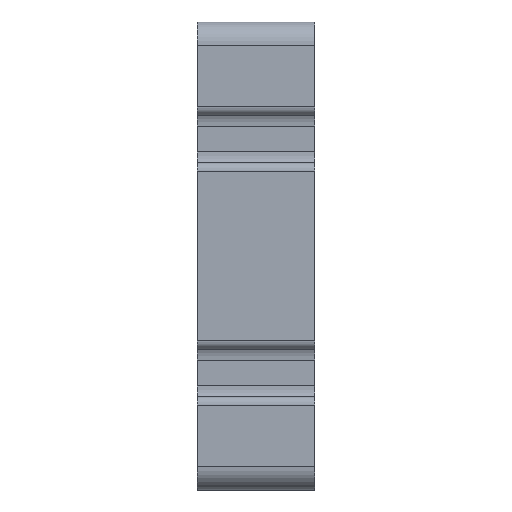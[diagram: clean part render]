
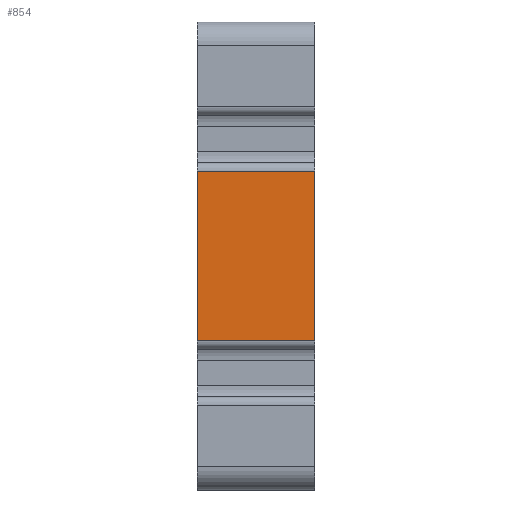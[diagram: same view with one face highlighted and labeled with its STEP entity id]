
A CAD part, left-side view. The second image highlights one B-rep face of the part: STEP entity #854.
In plain terms, the highlighted planar face has unit normal (-1, 0, 0).
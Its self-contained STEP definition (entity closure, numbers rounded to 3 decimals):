
#854=ADVANCED_FACE('',(#1759),#1760,.T.);
#1759=FACE_OUTER_BOUND('',#2716,.T.);
#1760=PLANE('',#2717);
#2716=EDGE_LOOP('',(#5189,#5190,#5191,#5192));
#2717=AXIS2_PLACEMENT_3D('',#5193,#5194,#5195);
#5189=ORIENTED_EDGE('',*,*,#6990,.T.);
#5190=ORIENTED_EDGE('',*,*,#7004,.T.);
#5191=ORIENTED_EDGE('',*,*,#7005,.T.);
#5192=ORIENTED_EDGE('',*,*,#6498,.T.);
#5193=CARTESIAN_POINT('',(-80.0,10.0,0.0));
#5194=DIRECTION('',(-1.0,0.0,0.0));
#5195=DIRECTION('',(0.0,0.0,-1.0));
#6498=EDGE_CURVE('',#8023,#8021,#8024,.T.);
#6990=EDGE_CURVE('',#8021,#8757,#8760,.T.);
#7004=EDGE_CURVE('',#8757,#8777,#8778,.T.);
#7005=EDGE_CURVE('',#8777,#8023,#8779,.T.);
#8021=VERTEX_POINT('',#10107);
#8023=VERTEX_POINT('',#10109);
#8024=LINE('',#10110,#10111);
#8757=VERTEX_POINT('',#11060);
#8760=LINE('',#11063,#11064);
#8777=VERTEX_POINT('',#11087);
#8778=LINE('',#11088,#11089);
#8779=LINE('',#11090,#11091);
#10107=CARTESIAN_POINT('',(-80.0,10.0,-14.5));
#10109=CARTESIAN_POINT('',(-80.0,10.0,14.5));
#10110=CARTESIAN_POINT('',(-80.0,10.0,36.0));
#10111=VECTOR('',#12141,1.0);
#11060=CARTESIAN_POINT('',(-80.0,-10.0,-14.5));
#11063=CARTESIAN_POINT('',(-80.0,10.0,-14.5));
#11064=VECTOR('',#12811,1.0);
#11087=CARTESIAN_POINT('',(-80.0,-10.0,14.5));
#11088=CARTESIAN_POINT('',(-80.0,-10.0,36.0));
#11089=VECTOR('',#12824,1.0);
#11090=CARTESIAN_POINT('',(-80.0,0.0,14.5));
#11091=VECTOR('',#12825,1.0);
#12141=DIRECTION('',(0.0,0.0,-1.0));
#12811=DIRECTION('',(0.0,-1.0,0.0));
#12824=DIRECTION('',(0.0,0.0,1.0));
#12825=DIRECTION('',(-0.0,1.0,0.0));
